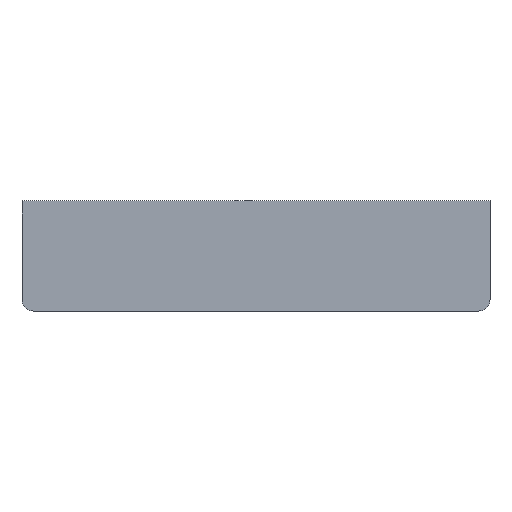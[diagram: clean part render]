
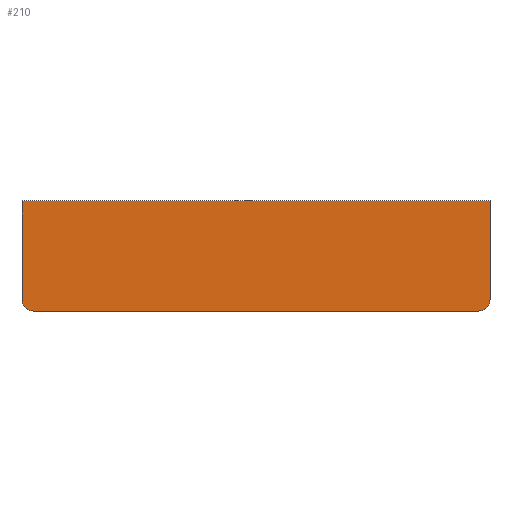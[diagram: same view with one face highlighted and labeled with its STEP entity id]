
A CAD part, top view. The second image highlights one B-rep face of the part: STEP entity #210.
In plain terms, the highlighted planar face has unit normal (0, 0, 1).
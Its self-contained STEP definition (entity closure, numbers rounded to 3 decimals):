
#17=LINE('',#327,#31);
#20=LINE('',#333,#34);
#24=LINE('',#345,#38);
#28=LINE('',#355,#42);
#31=VECTOR('',#267,201.441);
#34=VECTOR('',#272,42.4);
#38=VECTOR('',#284,191.441);
#42=VECTOR('',#296,42.4);
#51=PLANE('',#236);
#71=FACE_OUTER_BOUND('',#91,.T.);
#91=EDGE_LOOP('',(#186,#187,#188,#189,#190,#191));
#99=CIRCLE('',#229,5.);
#101=CIRCLE('',#233,5.);
#110=VERTEX_POINT('',#324);
#111=VERTEX_POINT('',#326);
#113=VERTEX_POINT('',#332);
#115=VERTEX_POINT('',#338);
#117=VERTEX_POINT('',#344);
#119=VERTEX_POINT('',#350);
#128=EDGE_CURVE('',#111,#110,#17,.T.);
#131=EDGE_CURVE('',#113,#111,#20,.T.);
#134=EDGE_CURVE('',#115,#113,#99,.T.);
#137=EDGE_CURVE('',#117,#115,#24,.T.);
#140=EDGE_CURVE('',#119,#117,#101,.T.);
#143=EDGE_CURVE('',#110,#119,#28,.T.);
#186=ORIENTED_EDGE('',*,*,#143,.T.);
#187=ORIENTED_EDGE('',*,*,#140,.T.);
#188=ORIENTED_EDGE('',*,*,#137,.T.);
#189=ORIENTED_EDGE('',*,*,#134,.T.);
#190=ORIENTED_EDGE('',*,*,#131,.T.);
#191=ORIENTED_EDGE('',*,*,#128,.T.);
#210=ADVANCED_FACE('',(#71),#51,.T.);
#229=AXIS2_PLACEMENT_3D('',#339,#278,#279);
#233=AXIS2_PLACEMENT_3D('',#351,#290,#291);
#236=AXIS2_PLACEMENT_3D('',#357,#299,#300);
#267=DIRECTION('',(-1.,0.,0.));
#272=DIRECTION('',(0.,1.,0.));
#278=DIRECTION('center_axis',(0.,0.,1.));
#279=DIRECTION('ref_axis',(0.,1.,0.));
#284=DIRECTION('',(1.,0.,0.));
#290=DIRECTION('center_axis',(0.,0.,1.));
#291=DIRECTION('ref_axis',(1.,0.,0.));
#296=DIRECTION('',(0.,-1.,0.));
#299=DIRECTION('center_axis',(0.,0.,1.));
#300=DIRECTION('ref_axis',(1.,0.,0.));
#324=CARTESIAN_POINT('',(-100.721,17.4,2.8));
#326=CARTESIAN_POINT('',(100.721,17.4,2.8));
#327=CARTESIAN_POINT('',(-100.721,17.4,2.8));
#332=CARTESIAN_POINT('',(100.721,-25.,2.8));
#333=CARTESIAN_POINT('',(100.721,18.,2.8));
#338=CARTESIAN_POINT('',(95.721,-30.,2.8));
#339=CARTESIAN_POINT('Origin',(95.721,-25.,2.8));
#344=CARTESIAN_POINT('',(-95.721,-30.,2.8));
#345=CARTESIAN_POINT('',(95.721,-30.,2.8));
#350=CARTESIAN_POINT('',(-100.721,-25.,2.8));
#351=CARTESIAN_POINT('Origin',(-95.721,-25.,2.8));
#355=CARTESIAN_POINT('',(-100.721,-25.,2.8));
#357=CARTESIAN_POINT('Origin',(0.,-5.909,
2.8));
